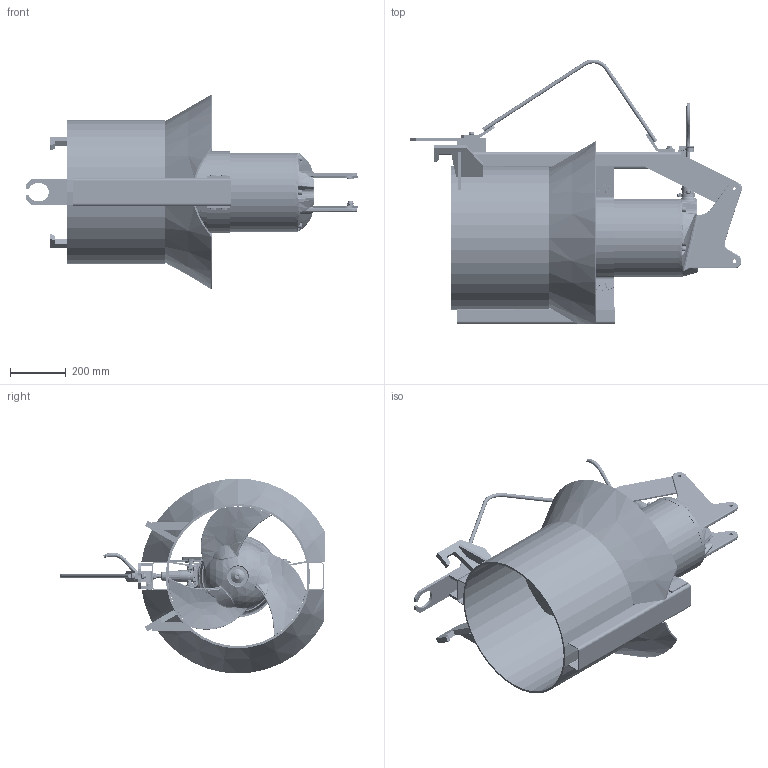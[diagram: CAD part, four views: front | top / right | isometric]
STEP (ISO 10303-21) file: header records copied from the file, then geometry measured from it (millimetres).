
FILE_DESCRIPTION (( 'STEP AP214' ), '1' );
FILE_NAME ('XRCP500_ANSI_MSD.STEP', '2022-11-18T06:21:11', ( '' ), ( '' ), 'SwSTEP 2.0', 'SolidWorks 2017', '' );
FILE_SCHEMA (( 'AUTOMOTIVE_DESIGN' ));
Length unit declared in the file: millimetre
Products named in the file (1): XRCP500_ANSI_MSD
Bounding box: 1185.81 x 946.51 x 696.45 mm (x, y, z)
Volume: 28577013.4 mm3; surface area: 8007004.9 mm2
Topology: 425 solids, 428 shells, 11640 faces, 27040 edges, 16315 vertices
Faces by surface type: cylinder 3692, plane 3496, torus 1713, bspline 1586, cone 814, sphere 339
Entity records: 691907 total; most frequent: CARTESIAN_POINT 302228, DIRECTION 54320, ORIENTED_EDGE 53094, EDGE_CURVE 26547, AXIS2_PLACEMENT_3D 21909, VERTEX_POINT 16155, EDGE_LOOP 12514, UNCERTAINTY_MEASURE_WITH_UNIT 12067
